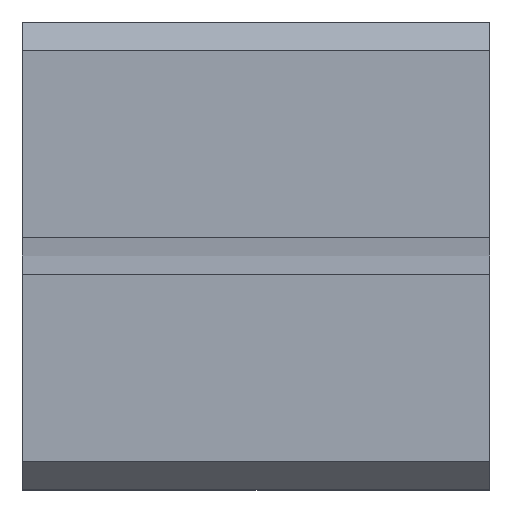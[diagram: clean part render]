
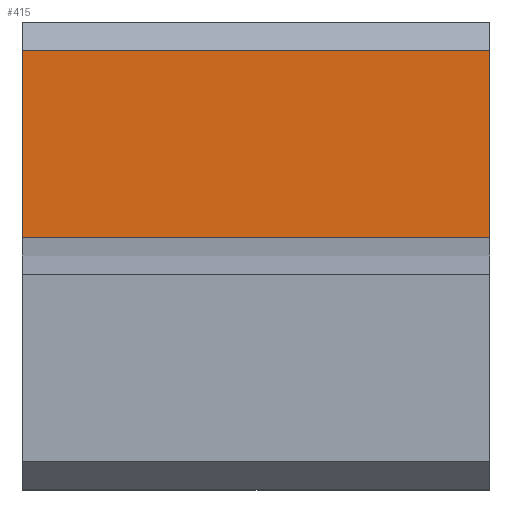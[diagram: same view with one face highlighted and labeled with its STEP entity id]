
A CAD part, left-side view. The second image highlights one B-rep face of the part: STEP entity #415.
In plain terms, the highlighted planar face has unit normal (-1, 0, 0).
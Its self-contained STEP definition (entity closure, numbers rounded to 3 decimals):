
#23 = EDGE_CURVE ( 'NONE', #568, #25, #928, .T. ) ;
#25 = VERTEX_POINT ( 'NONE', #466 ) ;
#33 = LINE ( 'NONE', #354, #237 ) ;
#37 = EDGE_CURVE ( 'NONE', #231, #289, #805, .T. ) ;
#38 = CARTESIAN_POINT ( 'NONE',  ( -29.5, 12.5, 1. ) ) ;
#89 = DIRECTION ( 'NONE',  ( 0., 0., -1. ) ) ;
#115 = LINE ( 'NONE', #804, #862 ) ;
#137 = DIRECTION ( 'NONE',  ( 0., 0., -1. ) ) ;
#158 = ORIENTED_EDGE ( 'NONE', *, *, #408, .F. ) ;
#187 = ORIENTED_EDGE ( 'NONE', *, *, #37, .T. ) ;
#211 = CARTESIAN_POINT ( 'NONE',  ( -29.5, -12.5, 11. ) ) ;
#228 = CARTESIAN_POINT ( 'NONE',  ( -29.5, -12.5, -12.5 ) ) ;
#231 = VERTEX_POINT ( 'NONE', #419 ) ;
#237 = VECTOR ( 'NONE', #137, 1000. ) ;
#260 = AXIS2_PLACEMENT_3D ( 'NONE', #228, #526, #89 ) ;
#289 = VERTEX_POINT ( 'NONE', #777 ) ;
#319 = FACE_OUTER_BOUND ( 'NONE', #522, .T. ) ;
#354 = CARTESIAN_POINT ( 'NONE',  ( -29.5, -12.5, 12.5 ) ) ;
#366 = VECTOR ( 'NONE', #475, 1000. ) ;
#408 = EDGE_CURVE ( 'NONE', #231, #25, #115, .T. ) ;
#415 = ADVANCED_FACE ( 'NONE', ( #319 ), #667, .F. ) ;
#419 = CARTESIAN_POINT ( 'NONE',  ( -29.5, 12.5, 1. ) ) ;
#466 = CARTESIAN_POINT ( 'NONE',  ( -29.5, 12.5, 11. ) ) ;
#475 = DIRECTION ( 'NONE',  ( 0., -1., 0. ) ) ;
#522 = EDGE_LOOP ( 'NONE', ( #712, #649, #158, #187 ) ) ;
#526 = DIRECTION ( 'NONE',  ( 1., 0., 0. ) ) ;
#546 = DIRECTION ( 'NONE',  ( 0., 1., 0. ) ) ;
#568 = VERTEX_POINT ( 'NONE', #211 ) ;
#649 = ORIENTED_EDGE ( 'NONE', *, *, #23, .T. ) ;
#667 = PLANE ( 'NONE',  #260 ) ;
#699 = CARTESIAN_POINT ( 'NONE',  ( -29.5, -12.5, 11. ) ) ;
#712 = ORIENTED_EDGE ( 'NONE', *, *, #722, .F. ) ;
#722 = EDGE_CURVE ( 'NONE', #568, #289, #33, .T. ) ;
#734 = DIRECTION ( 'NONE',  ( 0., 0., 1. ) ) ;
#740 = VECTOR ( 'NONE', #546, 1000. ) ;
#777 = CARTESIAN_POINT ( 'NONE',  ( -29.5, -12.5, 1. ) ) ;
#804 = CARTESIAN_POINT ( 'NONE',  ( -29.5, 12.5, 12.5 ) ) ;
#805 = LINE ( 'NONE', #38, #366 ) ;
#862 = VECTOR ( 'NONE', #734, 1000. ) ;
#928 = LINE ( 'NONE', #699, #740 ) ;
